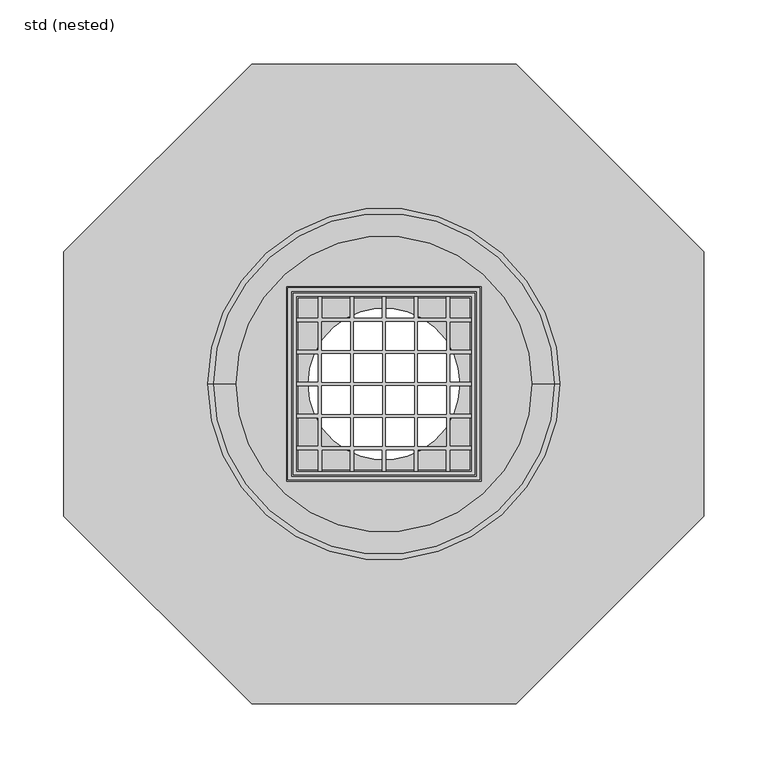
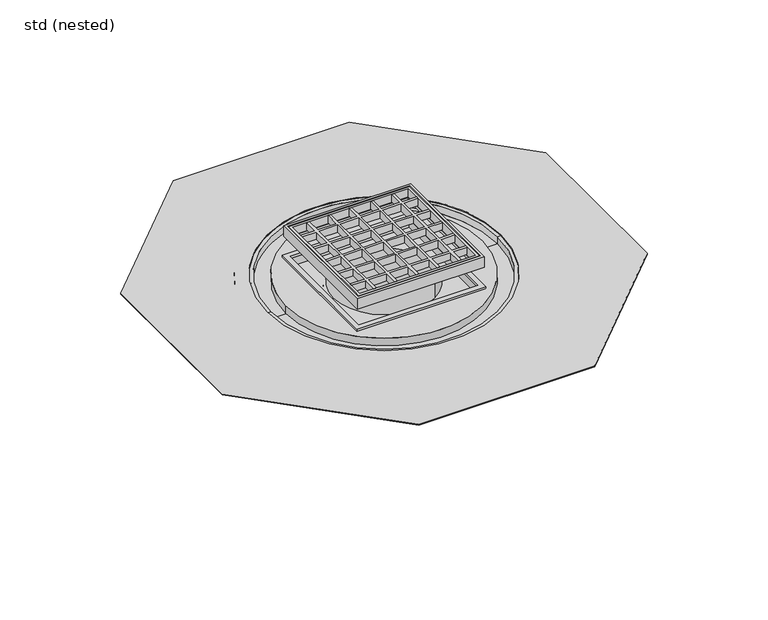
"""IFC4 building model written with IfcOpenShell, lengths in millimetres: sanitary terminal geometry, ZZZ_do_not_use_PF_GEN_UN_composite sealing top section Passavant_ACO : std (nested)."""

from ifc_helpers import new_model, si_unit, point, frame, origin, origin_with_axes, origin_2d, place, context, project, spatial, polyline, circle_curve, trimmed, segment, composite_curve, outline, extrude, faceted_brep, source, transform, mapped, element, save
from ifc_brep_helpers import plane_surface, cylinder_surface, revolved_surface, advanced_brep


def std_nested_c452d81f(model_context):
    return source(origin(), model_context, "Body", "SolidModel", [
        extrude(outline(polyline([(-48.5, -68.0), (-51.5, -68.0), (-51.5, -51.5), (-68.0, -51.5), (-68.0, -48.5), (-51.5, -48.5), (-51.5, -26.5), (-68.0, -26.5), (-68.0, -23.5), (-51.5, -23.5), (-51.5, -1.5), (-68.0, -1.5), (-68.0, 1.5), (-51.5, 1.5), (-51.5, 23.5), (-68.0, 23.5), (-68.0, 26.5), (-51.5, 26.5), (-51.5, 48.5), (-68.0, 48.5), (-68.0, 51.5), (-51.5, 51.5), (-51.5, 68.0), (-48.5, 68.0), (-48.5, 51.5), (-26.5, 51.5), (-26.5, 68.0), (-23.5, 68.0), (-23.5, 51.5), (-1.5, 51.5), (-1.5, 68.0), (1.5, 68.0), (1.5, 51.5), (23.5, 51.5), (23.5, 68.0), (26.5, 68.0), (26.5, 51.5), (48.5, 51.5), (48.5, 68.0), (51.5, 68.0), (51.5, 51.5), (68.0, 51.5), (68.0, 48.5), (51.5, 48.5), (51.5, 26.5), (68.0, 26.5), (68.0, 23.5), (51.5, 23.5), (51.5, 1.5), (68.0, 1.5), (68.0, -1.5), (51.5, -1.5), (51.5, -23.5), (68.0, -23.5), (68.0, -26.5), (51.5, -26.5), (51.5, -48.5), (68.0, -48.5), (68.0, -51.5), (51.5, -51.5), (51.5, -68.0), (48.5, -68.0), (48.5, -51.5), (26.5, -51.5), (26.5, -68.0), (23.5, -68.0), (23.5, -51.5), (1.5, -51.5), (1.5, -68.0), (-1.5, -68.0), (-1.5, -51.5), (-23.5, -51.5), (-23.5, -68.0), (-26.5, -68.0), (-26.5, -51.5), (-48.5, -51.5), (-48.5, -68.0)]), holes=[polyline([(-48.5, 48.5), (-48.5, 26.5), (-26.5, 26.5), (-26.5, 48.5), (-48.5, 48.5)]), polyline([(-48.5, 23.5), (-48.5, 1.5), (-26.5, 1.5), (-26.5, 23.5), (-48.5, 23.5)]), polyline([(-48.5, -1.5), (-48.5, -23.5), (-26.5, -23.5), (-26.5, -1.5), (-48.5, -1.5)]), polyline([(-48.5, -26.5), (-48.5, -48.5), (-26.5, -48.5), (-26.5, -26.5), (-48.5, -26.5)]), polyline([(-23.5, 48.5), (-23.5, 26.5), (-1.5, 26.5), (-1.5, 48.5), (-23.5, 48.5)]), polyline([(-23.5, 23.5), (-23.5, 1.5), (-1.5, 1.5), (-1.5, 23.5), (-23.5, 23.5)]), polyline([(-23.5, -1.5), (-23.5, -23.5), (-1.5, -23.5), (-1.5, -1.5), (-23.5, -1.5)]), polyline([(-23.5, -26.5), (-23.5, -48.5), (-1.5, -48.5), (-1.5, -26.5), (-23.5, -26.5)]), polyline([(1.5, 48.5), (1.5, 26.5), (23.5, 26.5), (23.5, 48.5), (1.5, 48.5)]), polyline([(1.5, 23.5), (1.5, 1.5), (23.5, 1.5), (23.5, 23.5), (1.5, 23.5)]), polyline([(1.5, -1.5), (1.5, -23.5), (23.5, -23.5), (23.5, -1.5), (1.5, -1.5)]), polyline([(1.5, -26.5), (1.5, -48.5), (23.5, -48.5), (23.5, -26.5), (1.5, -26.5)]), polyline([(26.5, 48.5), (26.5, 26.5), (48.5, 26.5), (48.5, 48.5), (26.5, 48.5)]), polyline([(26.5, 23.5), (26.5, 1.5), (48.5, 1.5), (48.5, 23.5), (26.5, 23.5)]), polyline([(26.5, -1.5), (26.5, -23.5), (48.5, -23.5), (48.5, -1.5), (26.5, -1.5)]), polyline([(26.5, -26.5), (26.5, -48.5), (48.5, -48.5), (48.5, -26.5), (26.5, -26.5)])]), frame((0.0, 0.0, 32.0), z_axis=(0.0, 0.0, 1.0), x_axis=(1.0, 0.0, 0.0)), (0.0, 0.0, 1.0), 9.0),
        extrude(outline(polyline([(71.0, 71.0), (71.0, -71.0), (-71.0, -71.0), (-71.0, 71.0), (71.0, 71.0)]), holes=[polyline([(68.0, 68.0), (-68.0, 68.0), (-68.0, -68.0), (68.0, -68.0), (68.0, 68.0)])]), frame((0.0, 0.0, 31.0), z_axis=(0.0, 0.0, 1.0), x_axis=(1.0, 0.0, 0.0)), (0.0, 0.0, 1.0), 10.0),
        extrude(outline(polyline([(-103.5, 250.0), (103.5, 250.0), (250.0, 103.5), (250.0, -103.5), (103.5, -250.0), (-103.5, -250.0), (-250.0, -103.5), (-250.0, 103.5), (-103.5, 250.0)]), holes=[composite_curve([segment(trimmed(circle_curve(origin_2d(), 137.5), [point((-137.5, 0.0))], [point((137.5, 0.0))], True, "CARTESIAN"), True, "CONTINUOUS"), segment(trimmed(circle_curve(origin_2d(), 137.5), [point((137.5, 0.0))], [point((-137.5, 0.0))], True, "CARTESIAN"), True, "CONTINUOUS")], self_intersect=False)]), origin_with_axes(), (0.0, 0.0, 1.0), 1.0),
        advanced_brep(
        [(153.5, 0.0, -3.0), (-153.5, 0.0, -3.0), (-153.5, 0.0, 0.0), (153.5, 0.0, 0.0), (136.5, 0.0, -3.0), (-136.5, 0.0, -3.0), (-133.5, 0.0, 0.0), (133.5, 0.0, 0.0), (136.5, 0.0, -12.0), (-136.5, 0.0, -12.0), (62.5, 0.0, -12.0), (-62.5, 0.0, -12.0), (62.5, 0.0, -130.0), (-62.5, 0.0, -130.0), (59.5, 0.0, -130.0), (-59.5, 0.0, -130.0), (59.5, 0.0, -9.0), (-59.5, 0.0, -9.0), (133.5, 0.0, -9.0), (-133.5, 0.0, -9.0)],
        [
            (0, 1, circle_curve(frame((0.0, 0.0, -3.0), z_axis=(0.0, 0.0, 1.0), x_axis=(-1.0, 0.0, 0.0)), 153.5)),
            (1, 2),
            (2, 3, circle_curve(frame((0.0, 0.0, 0.0), z_axis=(0.0, 0.0, -1.0), x_axis=(-1.0, 0.0, 0.0)), 153.5)),
            (3, 0),
            (1, 0, circle_curve(frame((0.0, 0.0, -3.0), z_axis=(0.0, 0.0, 1.0), x_axis=(-1.0, 0.0, 0.0)), 153.5)),
            (3, 2, circle_curve(frame((0.0, 0.0, 0.0), z_axis=(0.0, 0.0, -1.0), x_axis=(-1.0, 0.0, 0.0)), 153.5)),
            (4, 5, circle_curve(frame((0.0, 0.0, -3.0), z_axis=(0.0, 0.0, 1.0), x_axis=(-1.0, 0.0, 0.0)), 136.5)),
            (5, 1),
            (0, 4),
            (5, 4, circle_curve(frame((0.0, 0.0, -3.0), z_axis=(0.0, 0.0, 1.0), x_axis=(-1.0, 0.0, 0.0)), 136.5)),
            (2, 6),
            (6, 7, circle_curve(frame((0.0, 0.0, 0.0), z_axis=(0.0, 0.0, -1.0), x_axis=(-1.0, 0.0, 0.0)), 133.5)),
            (7, 3),
            (7, 6, circle_curve(frame((0.0, 0.0, 0.0), z_axis=(0.0, 0.0, -1.0), x_axis=(-1.0, 0.0, 0.0)), 133.5)),
            (8, 9, circle_curve(frame((0.0, 0.0, -12.0), z_axis=(0.0, 0.0, 1.0), x_axis=(-1.0, 0.0, 0.0)), 136.5)),
            (9, 5),
            (4, 8),
            (9, 8, circle_curve(frame((0.0, 0.0, -12.0), z_axis=(0.0, 0.0, 1.0), x_axis=(-1.0, 0.0, 0.0)), 136.5)),
            (10, 11, circle_curve(frame((0.0, 0.0, -12.0), z_axis=(0.0, 0.0, 1.0), x_axis=(-1.0, 0.0, 0.0)), 62.5)),
            (11, 9),
            (8, 10),
            (11, 10, circle_curve(frame((0.0, 0.0, -12.0), z_axis=(0.0, 0.0, 1.0), x_axis=(-1.0, 0.0, 0.0)), 62.5)),
            (12, 13, circle_curve(frame((0.0, 0.0, -130.0), z_axis=(0.0, 0.0, 1.0), x_axis=(-1.0, 0.0, 0.0)), 62.5)),
            (13, 11),
            (10, 12),
            (13, 12, circle_curve(frame((0.0, 0.0, -130.0), z_axis=(0.0, 0.0, 1.0), x_axis=(-1.0, 0.0, 0.0)), 62.5)),
            (14, 15, circle_curve(frame((0.0, 0.0, -130.0), z_axis=(0.0, 0.0, 1.0), x_axis=(-1.0, 0.0, 0.0)), 59.5)),
            (15, 13),
            (12, 14),
            (15, 14, circle_curve(frame((0.0, 0.0, -130.0), z_axis=(0.0, 0.0, 1.0), x_axis=(-1.0, 0.0, 0.0)), 59.5)),
            (16, 17, circle_curve(frame((0.0, 0.0, -9.0), z_axis=(0.0, 0.0, 1.0), x_axis=(-1.0, 0.0, 0.0)), 59.5)),
            (17, 15),
            (14, 16),
            (17, 16, circle_curve(frame((0.0, 0.0, -9.0), z_axis=(0.0, 0.0, 1.0), x_axis=(-1.0, 0.0, 0.0)), 59.5)),
            (18, 19, circle_curve(frame((0.0, 0.0, -9.0), z_axis=(0.0, 0.0, 1.0), x_axis=(-1.0, 0.0, 0.0)), 133.5)),
            (19, 17),
            (16, 18),
            (19, 18, circle_curve(frame((0.0, 0.0, -9.0), z_axis=(0.0, 0.0, 1.0), x_axis=(-1.0, 0.0, 0.0)), 133.5)),
            (6, 19),
            (18, 7),
        ],
        [
            cylinder_surface(frame((0.0, 0.0, 34.0), z_axis=(0.0, 0.0, -1.0), x_axis=(-1.0, 0.0, 0.0)), 153.5),
            plane_surface(frame((0.0, 0.0, -3.0), z_axis=(0.0, 0.0, -1.0), x_axis=(-1.0, 0.0, 0.0))),
            plane_surface(frame((0.0, 0.0, 0.0), z_axis=(0.0, 0.0, 1.0), x_axis=(-1.0, 0.0, 0.0))),
            cylinder_surface(frame((0.0, 0.0, 34.0), z_axis=(0.0, 0.0, -1.0), x_axis=(-1.0, 0.0, 0.0)), 136.5),
            plane_surface(frame((0.0, 0.0, -12.0), z_axis=(0.0, 0.0, -1.0), x_axis=(-1.0, 0.0, 0.0))),
            cylinder_surface(frame((0.0, 0.0, 34.0), z_axis=(0.0, 0.0, -1.0), x_axis=(-1.0, 0.0, 0.0)), 62.5),
            plane_surface(frame((0.0, 0.0, -130.0), z_axis=(0.0, 0.0, -1.0), x_axis=(-1.0, 0.0, 0.0))),
            revolved_surface(polyline([(-59.5, 0.0, -130.0), (-59.5, 0.0, -9.0)]), (0.0, 0.0, 34.0), (0.0, 0.0, -1.0)),
            plane_surface(frame((0.0, 0.0, -9.0), z_axis=(0.0, 0.0, 1.0), x_axis=(-1.0, 0.0, 0.0))),
            revolved_surface(polyline([(-133.5, 0.0, -9.0), (-133.5, 0.0, 0.0)]), (0.0, 0.0, 34.0), (0.0, 0.0, -1.0)),
        ],
        [
            (0, [[1, 2, 3, 4]]),
            (0, [[5, -4, 6, -2]]),
            (1, [[7, 8, -1, 9]]),
            (1, [[10, -9, -5, -8]]),
            (2, [[-3, 11, 12, 13]]),
            (2, [[-6, -13, 14, -11]]),
            (3, [[15, 16, -7, 17]]),
            (3, [[18, -17, -10, -16]]),
            (4, [[19, 20, -15, 21]]),
            (4, [[22, -21, -18, -20]]),
            (5, [[23, 24, -19, 25]]),
            (5, [[26, -25, -22, -24]]),
            (6, [[27, 28, -23, 29]]),
            (6, [[30, -29, -26, -28]]),
            (7, [[31, 32, -27, 33]]),
            (7, [[34, -33, -30, -32]]),
            (8, [[35, 36, -31, 37]]),
            (8, [[38, -37, -34, -36]]),
            (9, [[-12, 39, -35, 40]]),
            (9, [[-14, -40, -38, -39]]),
        ],
    ),
        extrude(outline(composite_curve([segment(trimmed(circle_curve(origin_2d(), 115.5), [point((-115.5, 0.0))], [point((115.5, 0.0))], False, "CARTESIAN"), True, "CONTINUOUS"), segment(trimmed(circle_curve(origin_2d(), 115.5), [point((115.5, 0.0))], [point((-115.5, 0.0))], False, "CARTESIAN"), True, "CONTINUOUS")], self_intersect=False), holes=[polyline([(70.0, 70.0), (-70.0, 70.0), (-70.0, -70.0), (70.0, -70.0), (70.0, 70.0)])]), frame((0.0, 0.0, -8.5), z_axis=(0.0, 0.0, 1.0), x_axis=(1.0, 0.0, 0.0)), (0.0, 0.0, 1.0), 9.5),
        extrude(outline(polyline([(76.0, 76.0), (76.0, -76.0), (-76.0, -76.0), (-76.0, 76.0), (76.0, 76.0)]), holes=[polyline([(70.0, 70.0), (-70.0, 70.0), (-70.0, -70.0), (70.0, -70.0), (70.0, 70.0)])]), frame((0.0, 0.0, 1.0), z_axis=(0.0, 0.0, 1.0), x_axis=(1.0, 0.0, 0.0)), (0.0, 0.0, 1.0), 3.0),
        faceted_brep([(67.0, 67.0, 31.0), (67.0, 67.0, 28.0), (67.0, -67.0, 28.0), (67.0, -67.0, 31.0), (72.0, 72.0, 41.0), (72.0, 72.0, 31.0), (72.0, -72.0, 31.0), (72.0, -72.0, 41.0), (75.0, 75.0, 28.0), (75.0, 75.0, 41.0), (75.0, -75.0, 41.0), (75.0, -75.0, 28.0), (-67.0, -67.0, 28.0), (-67.0, -67.0, 31.0), (-72.0, -72.0, 31.0), (-72.0, -72.0, 41.0), (-75.0, -75.0, 41.0), (-75.0, -75.0, 28.0), (-67.0, 67.0, 28.0), (-67.0, 67.0, 31.0), (-72.0, 72.0, 31.0), (-72.0, 72.0, 41.0), (-75.0, 75.0, 41.0), (-75.0, 75.0, 28.0)], [[[0, 1, 2, 3]], [[4, 5, 6, 7]], [[8, 9, 10, 11]], [[3, 2, 12, 13]], [[7, 6, 14, 15]], [[11, 10, 16, 17]], [[13, 12, 18, 19]], [[15, 14, 20, 21]], [[17, 16, 22, 23]], [[11, 17, 23, 8], [1, 18, 12, 2]], [[19, 18, 1, 0]], [[5, 20, 14, 6], [3, 13, 19, 0]], [[21, 20, 5, 4]], [[9, 22, 16, 10], [7, 15, 21, 4]], [[23, 22, 9, 8]]]),
    ])


if __name__ == "__main__":
    model = new_model("IFC4")
    model_context = context("Model", 3, world=origin())
    ifc_project = project(units=[si_unit("LENGTHUNIT", "METRE", prefix="MILLI")], contexts=[model_context])
    site = spatial("IfcSite", under=ifc_project)
    building = spatial("IfcBuilding", under=site)
    placement = place(None, origin())
    std_nested_shape = std_nested_c452d81f(model_context)
    element("IfcSanitaryTerminal", 1, ObjectType="ZZZ_do_not_use_PF_GEN_UN_composite sealing top section Passavant_ACO : std (nested)", at=placement, inside=building, context=model_context, shape_type="MappedRepresentation", body=[
        mapped(std_nested_shape, transform((0.0, 0.0, 0.0), x_axis=(1.0, 0.0, 0.0), y_axis=(0.0, 1.0, 0.0), z_axis=(0.0, 0.0, 1.0))),
    ])
    save(model, "model.ifc")
